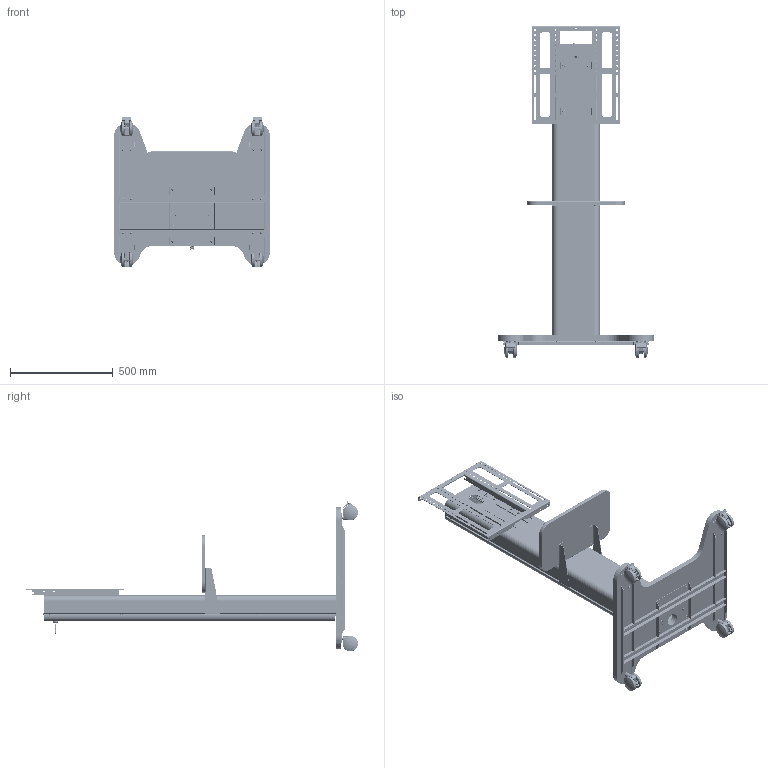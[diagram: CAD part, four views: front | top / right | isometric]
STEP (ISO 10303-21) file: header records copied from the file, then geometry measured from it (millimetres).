
FILE_DESCRIPTION (( 'STEP AP203' ), '1' );
FILE_NAME ('AV-VC Intro + shelf - AVS-031.STEP', '2016-11-07T16:25:01', ( 'a' ), ( 'Microsoft' ), 'SwSTEP 2.0', 'SolidWorks 2016', '' );
FILE_SCHEMA (( 'CONFIG_CONTROL_DESIGN' ));
Length unit declared in the file: millimetre
Products named in the file (51): P038-31; P038-A24; P038-14; P038-04; P038-A08; M10 WASHER BZP; P038-A21_Assembled; P038-A25; P038-23; P038-15; P038-A06; P038-A09; AV-VC Intro + shelf - AVS-031; M6 x 13 D NUT THREADED INSERT; P038-32; P038-25; M4x8 SBH BZP; P038-08; M6x16 SBH BZP; P038-10; P038-A07; P038-22; COTEL G50450; M4 HEX NUT; P038-A05; P038-A10; P038-09; P038-A15; P038-A11; P038-34; P038-01; P038-11; PEM S-M10-1 ZI-N; P038-33; P038-A02; P038-A04; P038-03; P038-12; TENTE S70-10x15-10; PEM S-M4-2 ZI-N_PEM S-M4-2 ZI--N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
Assembly tree (110 placements, depth 5):
  AV-VC Intro + shelf - AVS-031
    P038-A05
      P038-A07
        P038-08
        M6 x 13 D NUT THREADED INSERT  x16
      P038-A06
        P038-A09
          P038-09
          PEM S-M10-1 ZI-N  x2
          TENTE S70-10x15-10  x2
          75mm DIA TENTE CASTOR BRAKED
          75mm DIA TENTE CASTOR UN-BRAKED
          M10 WASHER BZP  x2
        P038-A10
          P038-10
          PEM S-M10-1 ZI-N  x2
          TENTE S70-10x15-10  x2
          75mm DIA TENTE CASTOR UN-BRAKED
          75mm DIA TENTE CASTOR BRAKED
          M10 WASHER BZP  x2
        P038-11  x2
        P038-A08
          P038-12
          P034-49  x2
          PEM S-M8-2 ZI-N  x4
      M6x16 SBH BZP  x16
    P038-A02
      P038-A04
        P038-01
        P038-03
        P038-02
        P038-05  x2
        P038-04
        P038-15
        M4x8 SBH BZP
        M4 HEX NUT
        P038-34
      P038-A11
        P038-13
        AVS-003-A04-A
        P038-14
        P038-23
        P038-25
        COTEL G50450  x6
    P038-A25
      P038-A24
        P038-36
        PEM S-M8-1 ZI-N  x4
    P038-A21_Assembled
      P038-32
      P038-A15
        P038-22
        M6 x 13 D NUT THREADED INSERT  x4
      P038-A22  x2
        P038-33
        PEM S-M4-2 ZI-N_PEM S-M4-2 ZI--N
      P038-31
Bounding box: 760 x 1616.43 x 733.11 mm (x, y, z)
Volume: 15507528.1 mm3; surface area: 4921181.7 mm2
Topology: 530 solids, 597 shells, 23978 faces, 60639 edges, 37565 vertices
Faces by surface type: plane 10376, cylinder 6065, bspline 5529, cone 1906, torus 88, sphere 14
Entity records: 572778 total; most frequent: CARTESIAN_POINT 289638, ORIENTED_EDGE 64079, DIRECTION 47823, EDGE_CURVE 32041, VERTEX_POINT 19943, AXIS2_PLACEMENT_3D 16610, VECTOR 14603, LINE 14603
